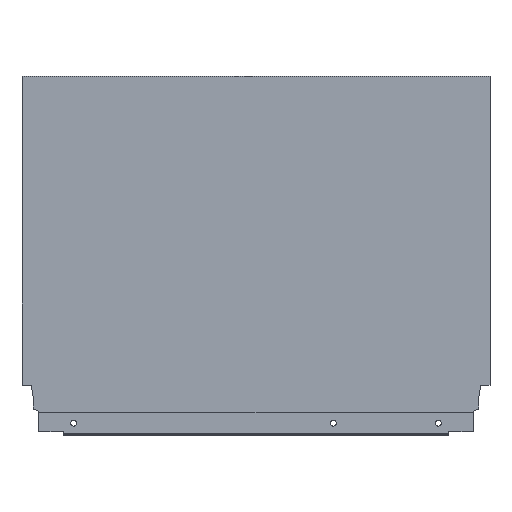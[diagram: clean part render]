
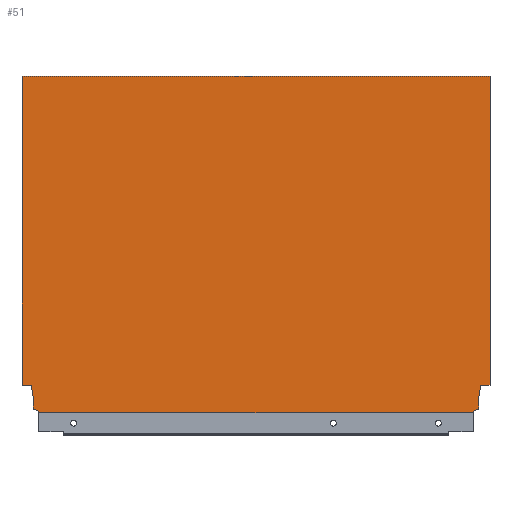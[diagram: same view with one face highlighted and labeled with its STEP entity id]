
A CAD part, top view. The second image highlights one B-rep face of the part: STEP entity #51.
In plain terms, the highlighted planar face has unit normal (0, 0, 1).
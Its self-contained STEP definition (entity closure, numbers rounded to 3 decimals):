
#51 = ADVANCED_FACE ( 'NONE', ( #285 ), #1378, .T. ) ;
#160 = ORIENTED_EDGE ( 'NONE', *, *, #430, .T. ) ;
#175 = ORIENTED_EDGE ( 'NONE', *, *, #436, .T. ) ;
#176 = ORIENTED_EDGE ( 'NONE', *, *, #439, .F. ) ;
#177 = ORIENTED_EDGE ( 'NONE', *, *, #432, .F. ) ;
#180 = ORIENTED_EDGE ( 'NONE', *, *, #429, .F. ) ;
#188 = ORIENTED_EDGE ( 'NONE', *, *, #433, .F. ) ;
#189 = ORIENTED_EDGE ( 'NONE', *, *, #434, .F. ) ;
#190 = ORIENTED_EDGE ( 'NONE', *, *, #435, .F. ) ;
#202 = ORIENTED_EDGE ( 'NONE', *, *, #426, .F. ) ;
#212 = ORIENTED_EDGE ( 'NONE', *, *, #431, .F. ) ;
#217 = ORIENTED_EDGE ( 'NONE', *, *, #427, .F. ) ;
#220 = ORIENTED_EDGE ( 'NONE', *, *, #424, .F. ) ;
#227 = ORIENTED_EDGE ( 'NONE', *, *, #422, .F. ) ;
#229 = ORIENTED_EDGE ( 'NONE', *, *, #428, .F. ) ;
#285 = FACE_OUTER_BOUND ( 'NONE', #1536, .T. ) ;
#422 = EDGE_CURVE ( 'NONE', #1088, #1096, #809, .T. ) ;
#424 = EDGE_CURVE ( 'NONE', #1102, #1062, #813, .T. ) ;
#426 = EDGE_CURVE ( 'NONE', #1062, #1065, #817, .T. ) ;
#427 = EDGE_CURVE ( 'NONE', #1096, #1102, #819, .T. ) ;
#428 = EDGE_CURVE ( 'NONE', #1065, #1101, #821, .T. ) ;
#429 = EDGE_CURVE ( 'NONE', #1101, #1121, #823, .T. ) ;
#430 = EDGE_CURVE ( 'NONE', #1088, #1141, #825, .T. ) ;
#431 = EDGE_CURVE ( 'NONE', #1121, #1081, #804, .T. ) ;
#432 = EDGE_CURVE ( 'NONE', #1133, #1069, #829, .T. ) ;
#433 = EDGE_CURVE ( 'NONE', #1069, #1114, #831, .T. ) ;
#434 = EDGE_CURVE ( 'NONE', #1114, #1109, #833, .T. ) ;
#435 = EDGE_CURVE ( 'NONE', #1109, #1141, #835, .T. ) ;
#436 = EDGE_CURVE ( 'NONE', #1146, #1081, #837, .T. ) ;
#439 = EDGE_CURVE ( 'NONE', #1146, #1133, #812, .T. ) ;
#480 = AXIS2_PLACEMENT_3D ( 'NONE', #1374, #1366, #1365 ) ;
#804 = LINE ( 'NONE', #993, #827 ) ;
#806 = VECTOR ( 'NONE', #942, 1000. ) ;
#809 = LINE ( 'NONE', #996, #810 ) ;
#810 = VECTOR ( 'NONE', #994, 1000. ) ;
#812 = LINE ( 'NONE', #943, #806 ) ;
#813 = LINE ( 'NONE', #990, #814 ) ;
#814 = VECTOR ( 'NONE', #988, 1000. ) ;
#817 = LINE ( 'NONE', #984, #818 ) ;
#818 = VECTOR ( 'NONE', #983, 1000. ) ;
#819 = LINE ( 'NONE', #981, #820 ) ;
#820 = VECTOR ( 'NONE', #979, 1000. ) ;
#821 = LINE ( 'NONE', #978, #822 ) ;
#822 = VECTOR ( 'NONE', #977, 1000. ) ;
#823 = LINE ( 'NONE', #975, #824 ) ;
#824 = VECTOR ( 'NONE', #974, 1000. ) ;
#825 = LINE ( 'NONE', #971, #826 ) ;
#826 = VECTOR ( 'NONE', #970, 1000. ) ;
#827 = VECTOR ( 'NONE', #967, 1000. ) ;
#829 = LINE ( 'NONE', #965, #830 ) ;
#830 = VECTOR ( 'NONE', #963, 1000. ) ;
#831 = LINE ( 'NONE', #962, #832 ) ;
#832 = VECTOR ( 'NONE', #959, 1000. ) ;
#833 = LINE ( 'NONE', #958, #834 ) ;
#834 = VECTOR ( 'NONE', #957, 1000. ) ;
#835 = LINE ( 'NONE', #956, #836 ) ;
#836 = VECTOR ( 'NONE', #954, 1000. ) ;
#837 = LINE ( 'NONE', #953, #838 ) ;
#838 = VECTOR ( 'NONE', #951, 1000. ) ;
#884 = CARTESIAN_POINT ( 'NONE',  ( -349.996, 0., 8. ) ) ;
#886 = CARTESIAN_POINT ( 'NONE',  ( -363., 21.2, 8. ) ) ;
#890 = CARTESIAN_POINT ( 'NONE',  ( -349.996, 1.146, 8. ) ) ;
#896 = CARTESIAN_POINT ( 'NONE',  ( -13.004, 1.146, 8. ) ) ;
#899 = CARTESIAN_POINT ( 'NONE',  ( -354.1, 10.765, 8. ) ) ;
#900 = CARTESIAN_POINT ( 'NONE',  ( -355.94, 21.2, 8. ) ) ;
#903 = CARTESIAN_POINT ( 'NONE',  ( 0., 21.2, 8. ) ) ;
#904 = CARTESIAN_POINT ( 'NONE',  ( -8.9, 2.64, 8. ) ) ;
#907 = CARTESIAN_POINT ( 'NONE',  ( 0., 260.7, 8. ) ) ;
#911 = CARTESIAN_POINT ( 'NONE',  ( -363., 260.7, 8. ) ) ;
#914 = CARTESIAN_POINT ( 'NONE',  ( -13.004, 0., 8. ) ) ;
#919 = CARTESIAN_POINT ( 'NONE',  ( -7.06, 21.2, 8. ) ) ;
#926 = CARTESIAN_POINT ( 'NONE',  ( -354.1, 2.64, 8. ) ) ;
#933 = CARTESIAN_POINT ( 'NONE',  ( -8.9, 10.765, 8. ) ) ;
#942 = DIRECTION ( 'NONE',  ( 0., 1., 0. ) ) ;
#943 = CARTESIAN_POINT ( 'NONE',  ( -349.996, 1.146, 8. ) ) ;
#951 = DIRECTION ( 'NONE',  ( 1., 0., 0. ) ) ;
#953 = CARTESIAN_POINT ( 'NONE',  ( -363., 0., 8. ) ) ;
#954 = DIRECTION ( 'NONE',  ( -1., 0., 0. ) ) ;
#956 = CARTESIAN_POINT ( 'NONE',  ( -368., 21.2, 8. ) ) ;
#957 = DIRECTION ( 'NONE',  ( -0.174, 0.985, 0. ) ) ;
#958 = CARTESIAN_POINT ( 'NONE',  ( -355.94, 21.2, 8. ) ) ;
#959 = DIRECTION ( 'NONE',  ( 0., 1., 0. ) ) ;
#962 = CARTESIAN_POINT ( 'NONE',  ( -354.1, 10.765, 8. ) ) ;
#963 = DIRECTION ( 'NONE',  ( -0.94, 0.342, 0. ) ) ;
#965 = CARTESIAN_POINT ( 'NONE',  ( -354.1, 2.64, 8. ) ) ;
#967 = DIRECTION ( 'NONE',  ( 0., -1., 0. ) ) ;
#970 = DIRECTION ( 'NONE',  ( 0., -1., 0. ) ) ;
#971 = CARTESIAN_POINT ( 'NONE',  ( -363., 0., 8. ) ) ;
#974 = DIRECTION ( 'NONE',  ( -0.94, -0.342, 0. ) ) ;
#975 = CARTESIAN_POINT ( 'NONE',  ( -8.9, 2.64, 8. ) ) ;
#977 = DIRECTION ( 'NONE',  ( 0., -1., 0. ) ) ;
#978 = CARTESIAN_POINT ( 'NONE',  ( -8.9, 10.765, 8. ) ) ;
#979 = DIRECTION ( 'NONE',  ( 0., -1., 0. ) ) ;
#981 = CARTESIAN_POINT ( 'NONE',  ( 0., 0., 8. ) ) ;
#983 = DIRECTION ( 'NONE',  ( -0.174, -0.985, 0. ) ) ;
#984 = CARTESIAN_POINT ( 'NONE',  ( -7.06, 21.2, 8. ) ) ;
#988 = DIRECTION ( 'NONE',  ( -1., 0., 0. ) ) ;
#990 = CARTESIAN_POINT ( 'NONE',  ( 0., 21.2, 8. ) ) ;
#993 = CARTESIAN_POINT ( 'NONE',  ( -13.004, 1.146, 8. ) ) ;
#994 = DIRECTION ( 'NONE',  ( 1., 0., 0. ) ) ;
#996 = CARTESIAN_POINT ( 'NONE',  ( -363., 260.7, 8. ) ) ;
#1062 = VERTEX_POINT ( 'NONE', #919 ) ;
#1065 = VERTEX_POINT ( 'NONE', #933 ) ;
#1069 = VERTEX_POINT ( 'NONE', #926 ) ;
#1081 = VERTEX_POINT ( 'NONE', #914 ) ;
#1088 = VERTEX_POINT ( 'NONE', #911 ) ;
#1096 = VERTEX_POINT ( 'NONE', #907 ) ;
#1101 = VERTEX_POINT ( 'NONE', #904 ) ;
#1102 = VERTEX_POINT ( 'NONE', #903 ) ;
#1109 = VERTEX_POINT ( 'NONE', #900 ) ;
#1114 = VERTEX_POINT ( 'NONE', #899 ) ;
#1121 = VERTEX_POINT ( 'NONE', #896 ) ;
#1133 = VERTEX_POINT ( 'NONE', #890 ) ;
#1141 = VERTEX_POINT ( 'NONE', #886 ) ;
#1146 = VERTEX_POINT ( 'NONE', #884 ) ;
#1365 = DIRECTION ( 'NONE',  ( 1., 0., 0. ) ) ;
#1366 = DIRECTION ( 'NONE',  ( 0., 0., 1. ) ) ;
#1374 = CARTESIAN_POINT ( 'NONE',  ( -363., 0., 8. ) ) ;
#1378 = PLANE ( 'NONE',  #480 ) ;
#1536 = EDGE_LOOP ( 'NONE', ( #160, #190, #189, #188, #177, #176, #175, #212, #180, #229, #202, #220, #217, #227 ) ) ;
